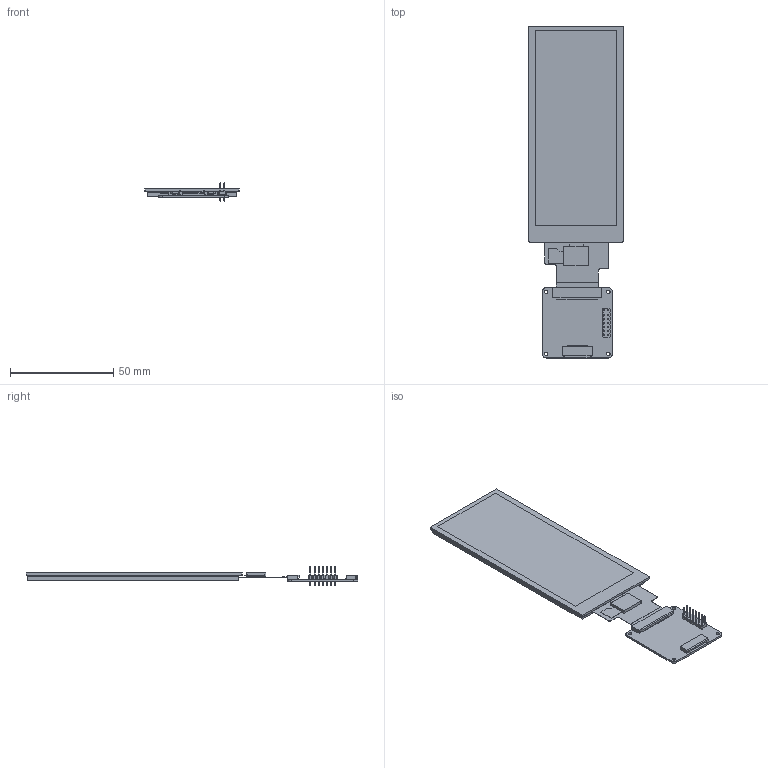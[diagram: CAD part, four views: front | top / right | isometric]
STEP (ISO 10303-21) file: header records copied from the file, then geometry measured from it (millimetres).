
FILE_DESCRIPTION((''),'2;1');
FILE_NAME('TS040FWV02CP-B1519B-V00-241209','2024-12-09T16:26:28',('Shaozi'),(''),'CREO PARAMETRIC BY PTC INC, 2024063','CREO PARAMETRIC BY PTC INC, 2024063','');
FILE_SCHEMA(('AUTOMOTIVE_DESIGN { 1 0 10303 214 1 1 1 1 }'));
Length unit declared in the file: millimetre
Products named in the file (1): TS040FWV02CP-B1519B-V00-241209
Bounding box: 45.64 x 160.5 x 8.8 mm (x, y, z)
Surface area: 24908 mm2 (no closed solid volume)
Topology: 0 solids, 23 shells, 349 faces, 1038 edges, 726 vertices
Faces by surface type: plane 319, cylinder 30
Entity records: 13377 total; most frequent: CARTESIAN_POINT 2113, ORIENTED_EDGE 1824, DIRECTION 1812, EDGE_CURVE 1038, VECTOR 962, LINE 962, VERTEX_POINT 726, AXIS2_PLACEMENT_3D 425
